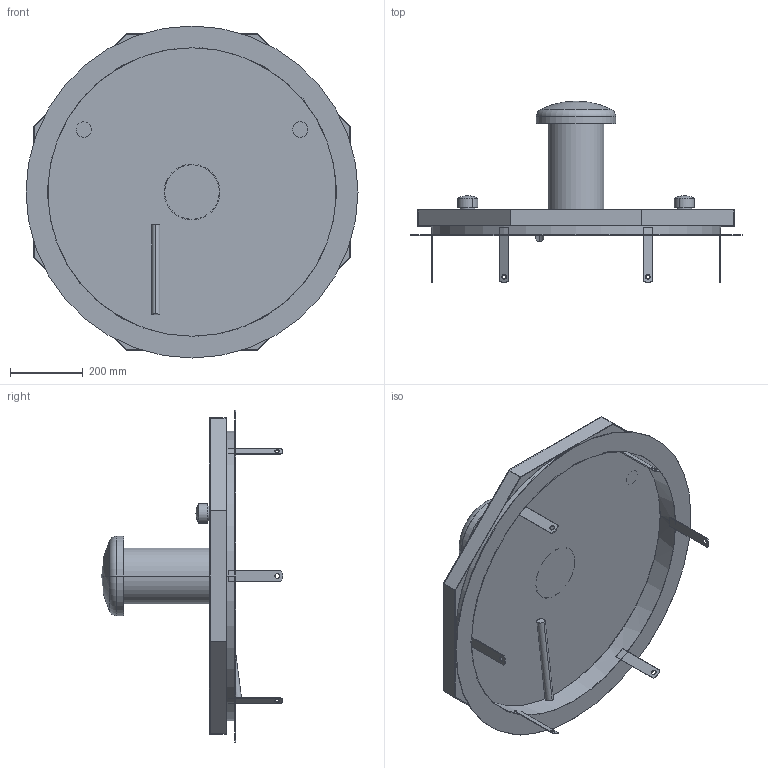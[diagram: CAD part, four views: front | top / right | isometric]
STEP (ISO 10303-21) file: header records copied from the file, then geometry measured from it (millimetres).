
FILE_DESCRIPTION((''),'2;1');
FILE_NAME('52179935','2024-02-12T13:51:48',('hrl'),('HUBER SE'),'CREO PARAMETRIC BY PTC INC, 2023154','CREO PARAMETRIC BY PTC INC, 2023154','');
FILE_SCHEMA(('AUTOMOTIVE_DESIGN { 1 0 10303 214 1 1 1 1 }'));
Length unit declared in the file: millimetre
Products named in the file (1): 52179935
Bounding box: 915 x 500 x 915 mm (x, y, z)
Volume: 2816546.8 mm3; surface area: 2609492.3 mm2
Topology: 3 solids, 4 shells, 113 faces, 288 edges, 184 vertices
Faces by surface type: plane 59, cylinder 42, sphere 8, torus 4
Entity records: 3995 total; most frequent: DIRECTION 618, CARTESIAN_POINT 579, ORIENTED_EDGE 560, EDGE_CURVE 280, AXIS2_PLACEMENT_3D 225, VERTEX_POINT 184, VECTOR 168, LINE 168
